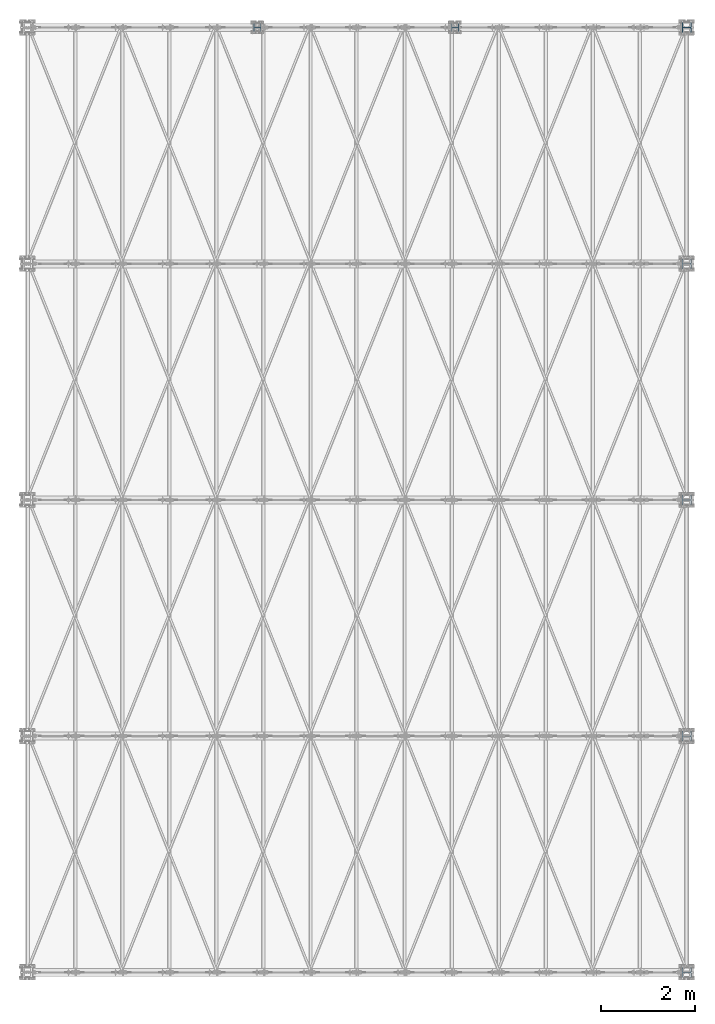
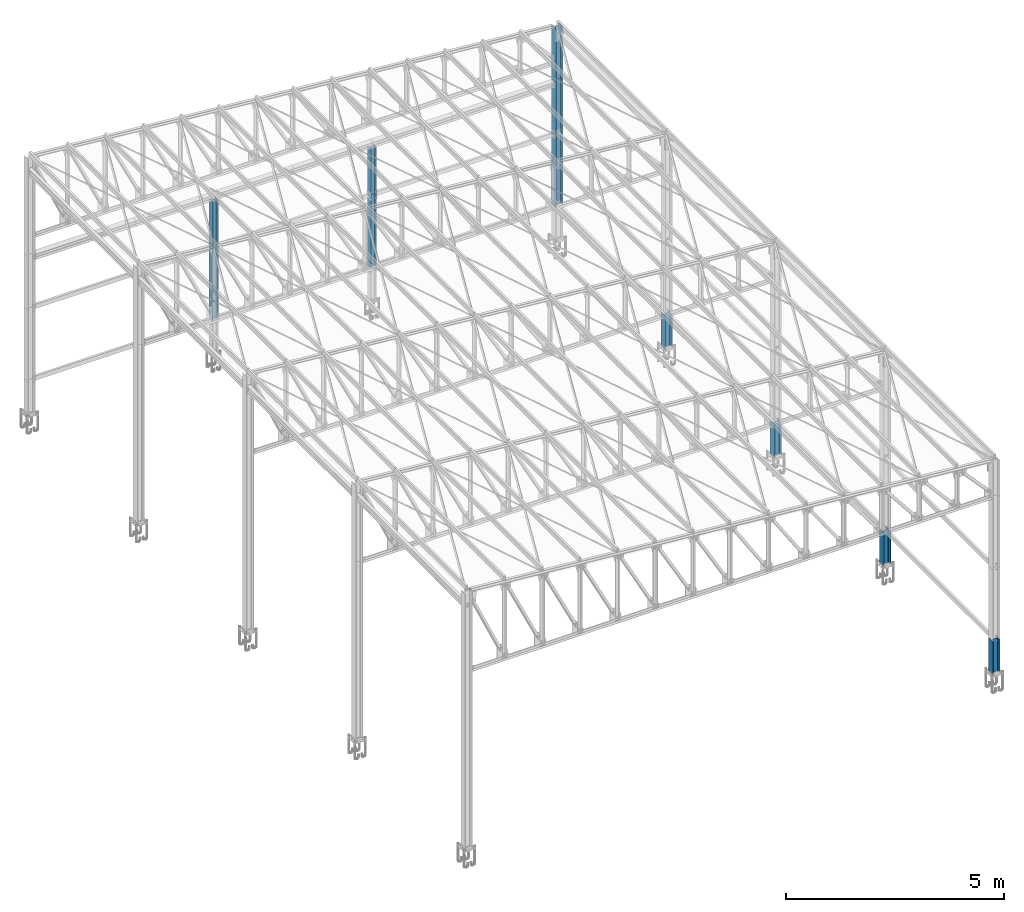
# One storey, part 2 of 251: 11 columns.
"""IFC4 building model written with IfcOpenShell, lengths in metres."""

from ifc_helpers import new_model, si_unit, frame, origin_with_axes, origin_2d_with_axis, place, context, project, spatial, i_section, extrude, clip, halfspace, material, material_profile, profile_set, profile_usage, type_object, element, save


model = new_model("IFC4")

# Units and contexts
model_context = context("Model", 3, precision=1e-05, world=origin_with_axes())
ifc_project = project(units=[si_unit("LENGTHUNIT", "METRE"), si_unit("AREAUNIT", "SQUARE_METRE"), si_unit("VOLUMEUNIT", "CUBIC_METRE"), si_unit("MASSUNIT", "GRAM", prefix="KILO"), si_unit("TIMEUNIT", "SECOND"), si_unit("PLANEANGLEUNIT", "RADIAN"), si_unit("SOLIDANGLEUNIT", "STERADIAN"), si_unit("THERMODYNAMICTEMPERATUREUNIT", "DEGREE_CELSIUS")], contexts=[model_context])

# Site, building, storey
placement_1 = place(None, origin_with_axes())
site = spatial("IfcSite", under=ifc_project, at=placement_1, Name="Italia", CompositionType="ELEMENT")
building = spatial("IfcBuilding", under=site, at=placement_1, Name="Deposito", CompositionType="ELEMENT")
storey = spatial("IfcBuildingStorey", under=building, at=placement_1, Name="Storey 0", CompositionType="ELEMENT", Elevation=0.0)

# Columns
ifc_material = material(Name="Acciaio", Category="Acciaio")
ifc_material_profile = material_profile(ifc_material, i_section(OverallWidth=0.2, OverallDepth=0.19, WebThickness=0.006, FlangeThickness=0.01, FilletRadius=0.018, at=origin_2d_with_axis()), Name="7 PILASTRO HEA200")
ifc_profile_set = profile_set([ifc_material_profile])
ifc_profile_usage_1 = profile_usage(ifc_profile_set, cardinal=5)
column_type_1 = type_object("IfcColumnType", Name="7 PILASTRO HEA200", PredefinedType="COLUMN", material=ifc_profile_usage_1)
placement_2 = place(placement_1, origin_with_axes())
column_1_placement = place(placement_2, origin_with_axes())
element("IfcColumn", 1, at=column_1_placement, inside=storey, type_object=column_type_1, Name="79", context=model_context, shape_type="SweptSolid", body=[
    extrude(i_section(OverallWidth=0.2, OverallDepth=0.19, WebThickness=0.006, FlangeThickness=0.01, FilletRadius=0.018, at=origin_2d_with_axis()), frame((20.0, 20.0, 4.5), z_axis=(0.0, 0.0, 1.0), x_axis=(0.0, 1.0, 0.0)), (0.0, 0.0, 1.0), 1.5),
])
ifc_profile_usage_2 = profile_usage(ifc_profile_set, cardinal=5)
column_type_2 = type_object("IfcColumnType", Name="7 PILASTRO HEA200", PredefinedType="COLUMN", material=ifc_profile_usage_2)
column_2_placement = place(placement_2, frame((20.0, 5.000000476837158, -0.5), z_axis=(0.0, 0.0, 1.0), x_axis=(1.0, 0.0, 0.0)))
element("IfcColumn", 2, at=column_2_placement, inside=storey, type_object=column_type_2, Name="32", context=model_context, shape_type="Clipping", body=[
    clip(extrude(i_section(OverallWidth=0.2, OverallDepth=0.19, WebThickness=0.006, FlangeThickness=0.01, FilletRadius=0.018, at=origin_2d_with_axis()), frame((0.0, 0.0, 0.0), z_axis=(0.0, 0.0, 1.0), x_axis=(0.0, 1.0, 0.0)), (0.0, 0.0, 1.0), 1.5), halfspace(frame((0.0, 0.0, 0.575), z_axis=(0.0, 0.0, -1.0), x_axis=(1.0, 0.0, 0.0)), False)),
])
ifc_profile_usage_3 = profile_usage(ifc_profile_set, cardinal=5)
column_type_3 = type_object("IfcColumnType", Name="7 PILASTRO HEA200", PredefinedType="COLUMN", material=ifc_profile_usage_3)
column_3_placement = place(placement_2, frame((20.0, 0.0, -0.5), z_axis=(0.0, 0.0, 1.0), x_axis=(1.0, 0.0, 0.0)))
element("IfcColumn", 3, at=column_3_placement, inside=storey, type_object=column_type_3, Name="14", context=model_context, shape_type="Clipping", body=[
    clip(extrude(i_section(OverallWidth=0.2, OverallDepth=0.19, WebThickness=0.006, FlangeThickness=0.01, FilletRadius=0.018, at=origin_2d_with_axis()), frame((0.0, 0.0, 0.0), z_axis=(0.0, 0.0, 1.0), x_axis=(0.0, 1.0, 0.0)), (0.0, 0.0, 1.0), 1.5), halfspace(frame((0.0, 0.0, 0.575), z_axis=(0.0, 0.0, -1.0), x_axis=(1.0, 0.0, 0.0)), False)),
])
ifc_profile_usage_4 = profile_usage(ifc_profile_set, cardinal=5)
column_type_4 = type_object("IfcColumnType", Name="7 PILASTRO HEA200", PredefinedType="COLUMN", material=ifc_profile_usage_4)
column_4_placement = place(placement_2, frame((20.0, 10.000000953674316, -0.5), z_axis=(0.0, 0.0, 1.0), x_axis=(1.0, 0.0, 0.0)))
element("IfcColumn", 4, at=column_4_placement, inside=storey, type_object=column_type_4, Name="47", context=model_context, shape_type="Clipping", body=[
    clip(extrude(i_section(OverallWidth=0.2, OverallDepth=0.19, WebThickness=0.006, FlangeThickness=0.01, FilletRadius=0.018, at=origin_2d_with_axis()), frame((0.0, 0.0, 0.0), z_axis=(0.0, 0.0, 1.0), x_axis=(0.0, 1.0, 0.0)), (0.0, 0.0, 1.0), 1.5), halfspace(frame((0.0, 0.0, 0.575), z_axis=(0.0, 0.0, -1.0), x_axis=(1.0, 0.0, 0.0)), False)),
])
ifc_profile_usage_5 = profile_usage(ifc_profile_set, cardinal=5)
column_type_5 = type_object("IfcColumnType", Name="7 PILASTRO HEA200", PredefinedType="COLUMN", material=ifc_profile_usage_5)
column_5_placement = place(placement_2, frame((20.0, 14.99999713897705, -0.5), z_axis=(0.0, 0.0, 1.0), x_axis=(1.0, 0.0, 0.0)))
element("IfcColumn", 5, at=column_5_placement, inside=storey, type_object=column_type_5, Name="62", context=model_context, shape_type="Clipping", body=[
    clip(extrude(i_section(OverallWidth=0.2, OverallDepth=0.19, WebThickness=0.006, FlangeThickness=0.01, FilletRadius=0.018, at=origin_2d_with_axis()), frame((0.0, 0.0, 0.0), z_axis=(0.0, 0.0, 1.0), x_axis=(0.0, 1.0, 0.0)), (0.0, 0.0, 1.0), 1.5), halfspace(frame((0.0, 1.90735e-06, 0.575), z_axis=(0.0, 0.0, -1.0), x_axis=(1.0, 0.0, 0.0)), False)),
])
ifc_profile_usage_6 = profile_usage(ifc_profile_set, cardinal=5)
column_type_6 = type_object("IfcColumnType", Name="7 PILASTRO HEA200", PredefinedType="COLUMN", material=ifc_profile_usage_6)
column_6_placement = place(placement_2, origin_with_axes())
element("IfcColumn", 6, at=column_6_placement, inside=storey, type_object=column_type_6, Name="79", context=model_context, shape_type="SweptSolid", body=[
    extrude(i_section(OverallWidth=0.2, OverallDepth=0.19, WebThickness=0.006, FlangeThickness=0.01, FilletRadius=0.018, at=origin_2d_with_axis()), frame((20.0, 20.0, 1.0), z_axis=(0.0, 0.0, 1.0), x_axis=(0.0, 1.0, 0.0)), (0.0, 0.0, 1.0), 2.0),
])
ifc_profile_usage_7 = profile_usage(ifc_profile_set, cardinal=5)
column_type_7 = type_object("IfcColumnType", Name="4 PILASTRO HEA160", PredefinedType="COLUMN", material=ifc_profile_usage_7)
column_7_placement = place(placement_2, frame((15.10000228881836, 19.999998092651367, 3.0), z_axis=(0.0, 0.0, 1.0), x_axis=(1.0, 0.0, 0.0)))
element("IfcColumn", 7, at=column_7_placement, inside=storey, type_object=column_type_7, Name="74", context=model_context, shape_type="Clipping", body=[
    clip(extrude(i_section(OverallWidth=0.16, OverallDepth=0.152, WebThickness=0.006, FlangeThickness=0.009, FilletRadius=0.015, at=origin_2d_with_axis()), frame((0.0, 0.0, 0.0), z_axis=(0.0, 0.0, 1.0), x_axis=(0.0, 1.0, 0.0)), (0.0, 0.0, 1.0), 2.25), halfspace(frame((0.0, 0.0, 1.333), z_axis=(0.0, 0.0, -1.0), x_axis=(1.0, 0.0, 0.0)), True)),
])
ifc_profile_usage_8 = profile_usage(ifc_profile_set, cardinal=5)
column_type_8 = type_object("IfcColumnType", Name="4 PILASTRO HEA160", PredefinedType="COLUMN", material=ifc_profile_usage_8)
column_8_placement = place(placement_2, origin_with_axes())
element("IfcColumn", 8, at=column_8_placement, inside=storey, type_object=column_type_8, Name="74", context=model_context, shape_type="SweptSolid", body=[
    extrude(i_section(OverallWidth=0.16, OverallDepth=0.152, WebThickness=0.006, FlangeThickness=0.009, FilletRadius=0.015, at=origin_2d_with_axis()), frame((15.1, 20.0, 1.0), z_axis=(0.0, 0.0, 1.0), x_axis=(0.0, 1.0, 0.0)), (0.0, 0.0, 1.0), 2.0),
])
ifc_profile_usage_9 = profile_usage(ifc_profile_set, cardinal=5)
column_type_9 = type_object("IfcColumnType", Name="4 PILASTRO HEA160", PredefinedType="COLUMN", material=ifc_profile_usage_9)
column_9_placement = place(placement_2, frame((10.915000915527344, 19.999998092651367, 3.0), z_axis=(0.0, 0.0, 1.0), x_axis=(1.0, 0.0, 0.0)))
element("IfcColumn", 9, at=column_9_placement, inside=storey, type_object=column_type_9, Name="68", context=model_context, shape_type="Clipping", body=[
    clip(extrude(i_section(OverallWidth=0.16, OverallDepth=0.152, WebThickness=0.006, FlangeThickness=0.009, FilletRadius=0.015, at=origin_2d_with_axis()), frame((0.0, 0.0, 0.0), z_axis=(0.0, 0.0, 1.0), x_axis=(0.0, 1.0, 0.0)), (0.0, 0.0, 1.0), 2.25), halfspace(frame((-9.53674e-07, 0.0, 1.333), z_axis=(0.0, 0.0, -1.0), x_axis=(1.0, 0.0, 0.0)), True)),
])
ifc_profile_usage_10 = profile_usage(ifc_profile_set, cardinal=5)
column_type_10 = type_object("IfcColumnType", Name="4 PILASTRO HEA160", PredefinedType="COLUMN", material=ifc_profile_usage_10)
column_10_placement = place(placement_2, origin_with_axes())
element("IfcColumn", 10, at=column_10_placement, inside=storey, type_object=column_type_10, Name="68", context=model_context, shape_type="SweptSolid", body=[
    extrude(i_section(OverallWidth=0.16, OverallDepth=0.152, WebThickness=0.006, FlangeThickness=0.009, FilletRadius=0.015, at=origin_2d_with_axis()), frame((10.915, 20.0, 1.0), z_axis=(0.0, 0.0, 1.0), x_axis=(0.0, 1.0, 0.0)), (0.0, 0.0, 1.0), 2.0),
])
ifc_profile_usage_11 = profile_usage(ifc_profile_set, cardinal=5)
column_type_11 = type_object("IfcColumnType", Name="7 PILASTRO HEA200", PredefinedType="COLUMN", material=ifc_profile_usage_11)
column_11_placement = place(placement_2, origin_with_axes())
element("IfcColumn", 11, at=column_11_placement, inside=storey, type_object=column_type_11, Name="79", context=model_context, shape_type="SweptSolid", body=[
    extrude(i_section(OverallWidth=0.2, OverallDepth=0.19, WebThickness=0.006, FlangeThickness=0.01, FilletRadius=0.018, at=origin_2d_with_axis()), frame((20.0, 20.0, 3.0), z_axis=(0.0, 0.0, 1.0), x_axis=(0.0, 1.0, 0.0)), (0.0, 0.0, 1.0), 1.5),
])

save(model, "model.ifc")
